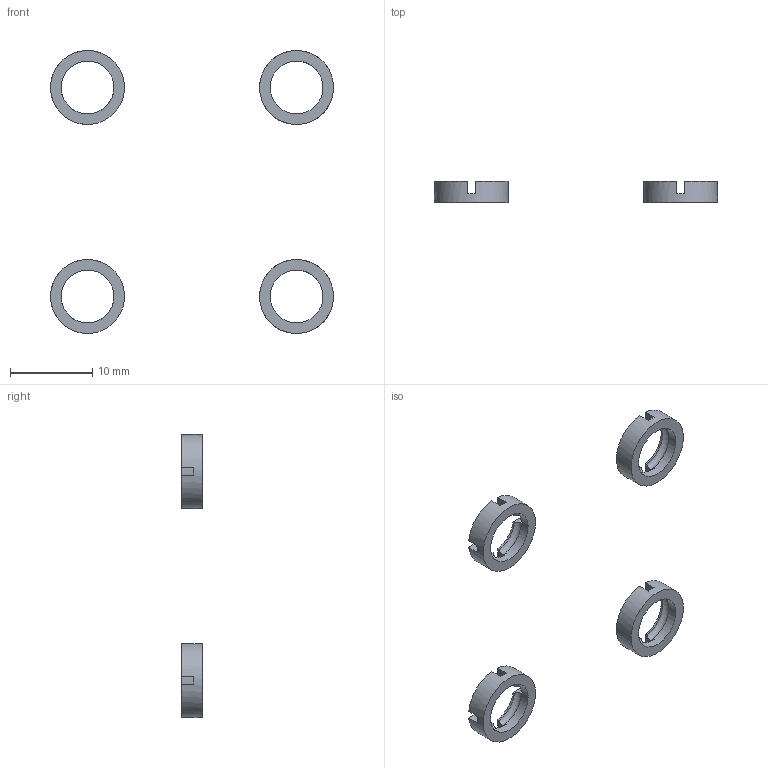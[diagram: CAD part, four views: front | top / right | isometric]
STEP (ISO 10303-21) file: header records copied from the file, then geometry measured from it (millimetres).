
FILE_DESCRIPTION(/* description */ (''),/* implementation_level */ '2;1');
FILE_NAME(/* name */ '/Users/lara/Documents/eTextileCamp/swatch/final/eTextile_swatch_socket_cond_PLA.step',/* time_stamp */ '2017-07-14T02:19:50+02:00',/* author */ (''),/* organization */ (''),/* preprocessor_version */ 'ST-DEVELOPER v16.13',/* originating_system */ 'Autodesk Translation Framework v6.1.1.50',/* authorisation */ '');
FILE_SCHEMA (('AUTOMOTIVE_DESIGN { 1 0 10303 214 3 1 1 }'));
Length unit declared in the file: millimetre
Products named in the file (3): eTextile swatch socket final conductive PLA v1; Component1; Component2
Assembly tree (4 placements, depth 2):
  eTextile swatch socket final conductive PLA v1
    Component1  x2
    Component2  x2
Bounding box: 34.39 x 2.52 x 34.4 mm (x, y, z)
Volume: 262.9 mm3; surface area: 785 mm2
Topology: 4 solids, 4 shells, 84 faces, 240 edges, 160 vertices
Faces by surface type: plane 52, cylinder 20, torus 12
Full cylindrical faces by diameter (mm): 6.426 x4, 9 x4
Entity records: 1607 total; most frequent: CARTESIAN_POINT 453, DIRECTION 238, ORIENTED_EDGE 224, EDGE_CURVE 112, AXIS2_PLACEMENT_3D 89, VERTEX_POINT 76, LINE 60, VECTOR 60
